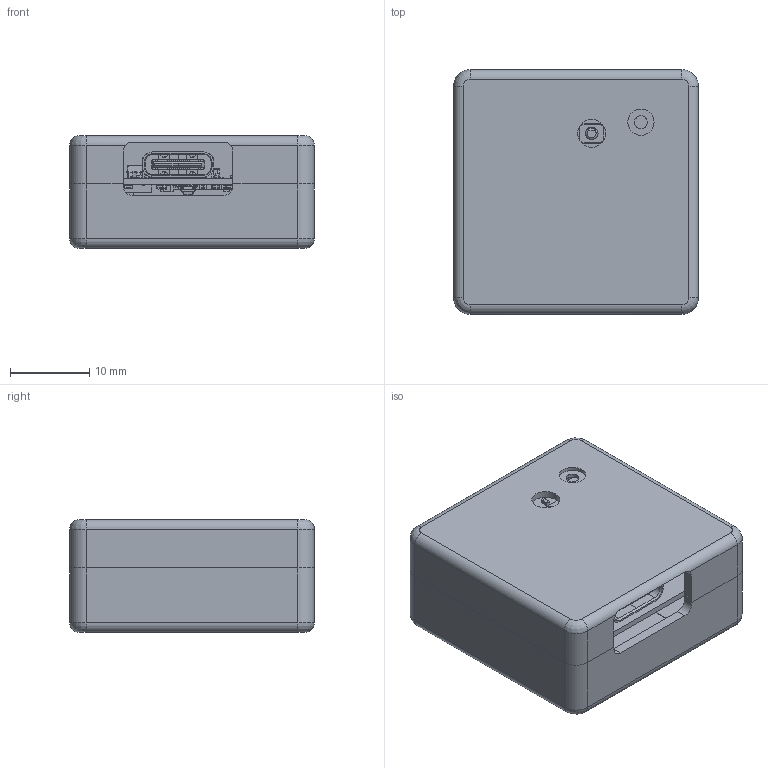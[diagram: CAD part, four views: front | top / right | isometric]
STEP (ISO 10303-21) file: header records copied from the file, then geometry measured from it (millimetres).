
FILE_DESCRIPTION(('Open CASCADE Model'),'2;1');
FILE_NAME('Open CASCADE Shape Model','2026-10-29T14:02:22',('Author'),( 'Open CASCADE'),'Open CASCADE STEP processor 7.9','Open CASCADE 7.9' ,'Unknown');
FILE_SCHEMA(('AUTOMOTIVE_DESIGN { 1 0 10303 214 1 1 1 1 }'));
Length unit declared in the file: millimetre
Products named in the file (6): retained_battery_candidate; case-lower; case-upper; separator; pcba-dummy; battery-max-positioned
Assembly tree (5 placements, depth 2):
  retained_battery_candidate
    case-lower
    case-upper
    separator
    pcba-dummy
    battery-max-positioned
Bounding box: 30.8 x 30.8 x 14.2 mm (x, y, z)
Volume: 6452.2 mm3; surface area: 12110.4 mm2
Topology: 108 solids, 108 shells, 3240 faces, 8408 edges, 5417 vertices
Faces by surface type: plane 2230, cylinder 865, bspline 126, revolution 8, cone 8, sphere 2, torus 1
Full cylindrical faces by diameter (mm): 0.25 x1, 0.5 x2, 0.65 x2, 0.8 x1, 1.6 x2, 2 x1, 3.3 x1, 3.5 x1
Entity records: 210498 total; most frequent: CARTESIAN_POINT 41729, DIRECTION 31577, LINE 20943, VECTOR 20943, ORIENTED_EDGE 16820, PCURVE 16812, DEFINITIONAL_REPRESENTATION 16812, EDGE_CURVE 8406
